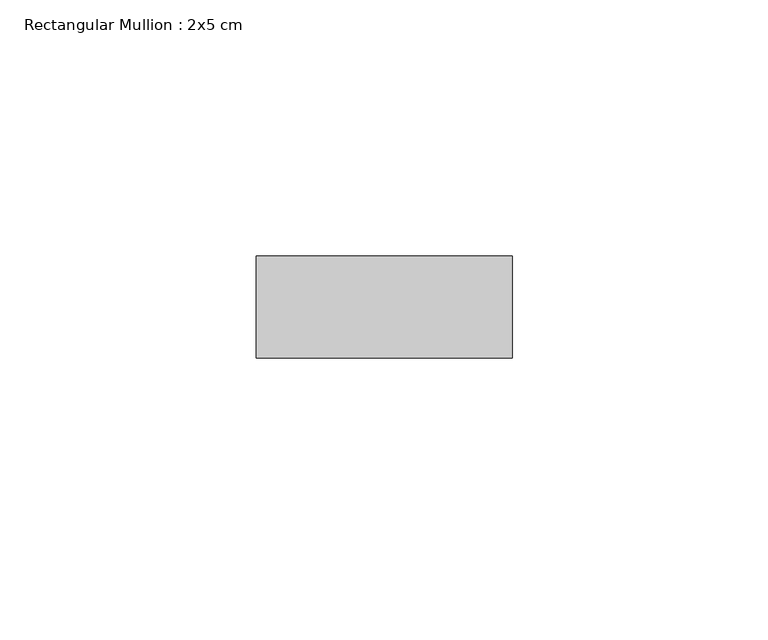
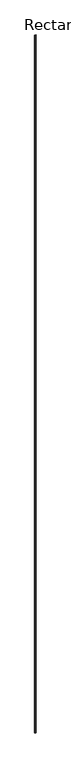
"""IFC4 building model written with IfcOpenShell, lengths in millimetres: member geometry, Rectangular Mullion : 2x5 cm."""

from ifc_helpers import new_model, si_unit, frame, origin, place, context, project, spatial, polyline, outline, extrude, source, transform, mapped, element, save


def rectangular_mullion_2x5_cm_ac3e74b4(model_context):
    return source(origin(), model_context, "Body", "SweptSolid", [
        extrude(outline(polyline([(50.0, 20.0), (50.0, 0.0), (0.0, 0.0), (0.0, 20.0), (50.0, 20.0)])), frame((0.0, 0.0, -28693.6973617), z_axis=(0.0, 0.0, 1.0), x_axis=(1.0, 0.0, 0.0)), (0.0, 0.0, 1.0), 28693.6973617),
    ])


if __name__ == "__main__":
    model = new_model("IFC4")
    model_context = context("Model", 3, world=origin())
    ifc_project = project(units=[si_unit("LENGTHUNIT", "METRE", prefix="MILLI")], contexts=[model_context])
    site = spatial("IfcSite", under=ifc_project)
    building = spatial("IfcBuilding", under=site)
    placement = place(None, origin())
    rectangular_mullion_2x5_cm_shape = rectangular_mullion_2x5_cm_ac3e74b4(model_context)
    element("IfcMember", 1, ObjectType="Rectangular Mullion : 2x5 cm", at=placement, inside=building, context=model_context, shape_type="MappedRepresentation", body=[
        mapped(rectangular_mullion_2x5_cm_shape, transform((0.0, 0.0, 0.0), x_axis=(1.0, 0.0, 0.0), y_axis=(0.0, 1.0, 0.0), z_axis=(0.0, 0.0, 1.0))),
    ])
    save(model, "model.ifc")
